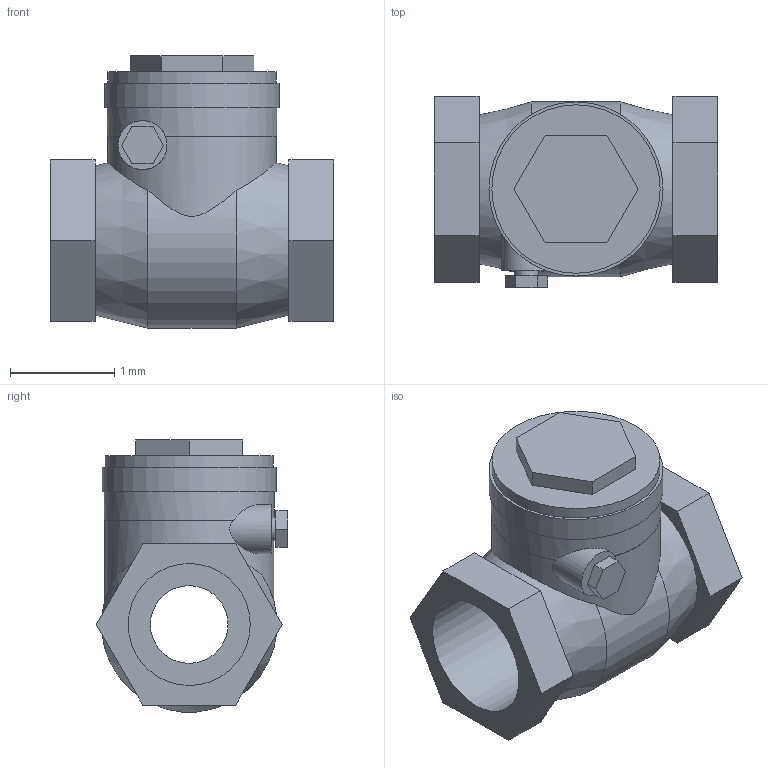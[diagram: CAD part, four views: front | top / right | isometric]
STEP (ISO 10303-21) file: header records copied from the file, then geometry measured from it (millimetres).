
FILE_DESCRIPTION(('Open CASCADE Model'),'2;1');
FILE_NAME('Open CASCADE Shape Model','2022-04-26T11:45:38',('Author'),( 'Open CASCADE'),'Open CASCADE STEP processor 7.3','Open CASCADE 7.3' ,'Unknown');
FILE_SCHEMA(('AUTOMOTIVE_DESIGN { 1 0 10303 214 1 1 1 1 }'));
Length unit declared in the file: millimetre
Products named in the file (1): Open CASCADE STEP translator 7.3 1
Bounding box: 2.72 x 1.84 x 2.61 mm (x, y, z)
Volume: 5.4 mm3; surface area: 33.5 mm2
Topology: 1 solids, 1 shells, 50 faces, 116 edges, 77 vertices
Faces by surface type: plane 38, cylinder 10, cone 2
Full cylindrical faces by diameter (mm): 0.225 x1, 0.47 x1, 0.745 x1, 1.17 x2, 1.615 x1, 1.62 x1, 1.63 x1, 1.67 x1
Entity records: 3847 total; most frequent: CARTESIAN_POINT 1481, DIRECTION 428, LINE 268, VECTOR 268, ORIENTED_EDGE 232, PCURVE 232, DEFINITIONAL_REPRESENTATION 232, EDGE_CURVE 116
